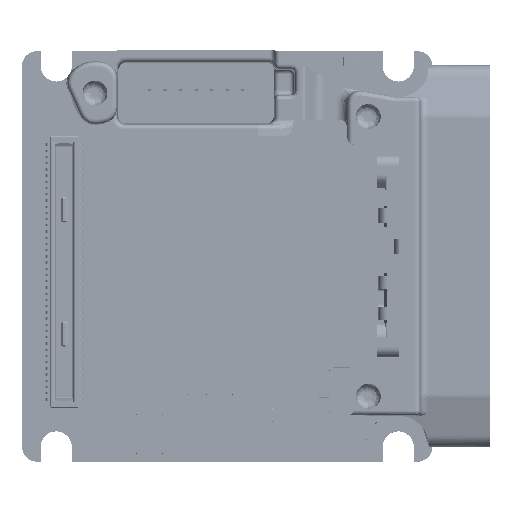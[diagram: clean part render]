
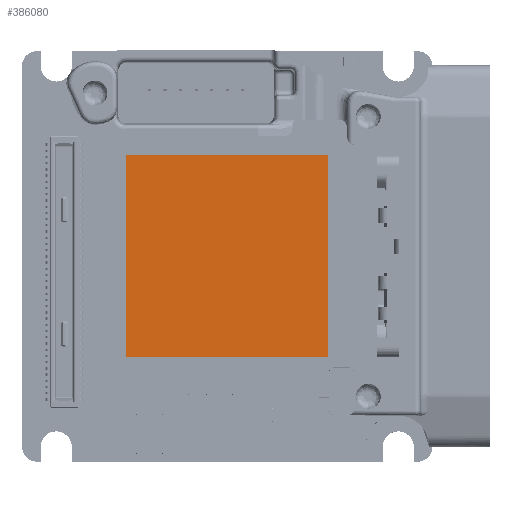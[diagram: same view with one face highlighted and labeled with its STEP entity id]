
A CAD part, top view. The second image highlights one B-rep face of the part: STEP entity #386080.
In plain terms, the highlighted planar face has unit normal (0, 0, 1).
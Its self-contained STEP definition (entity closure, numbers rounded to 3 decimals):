
#23294 = EDGE_LOOP ( 'NONE', ( #552199, #713909, #111579, #713927 ) ) ;
#109202 = CARTESIAN_POINT ( 'NONE',  ( 6.5, -6.5, 6.162 ) ) ;
#111579 = ORIENTED_EDGE ( 'NONE', *, *, #208234, .F. ) ;
#129047 = PLANE ( 'NONE',  #692253 ) ;
#136791 = DIRECTION ( 'NONE',  ( 1., 0., 0. ) ) ;
#156968 = DIRECTION ( 'NONE',  ( 0., 1., 0. ) ) ;
#176640 = CARTESIAN_POINT ( 'NONE',  ( -6.5, 6.5, 6.162 ) ) ;
#178102 = EDGE_CURVE ( 'NONE', #320762, #644305, #224330, .T. ) ;
#208234 = EDGE_CURVE ( 'NONE', #224751, #320762, #577800, .T. ) ;
#224330 = LINE ( 'NONE', #346500, #488703 ) ;
#224751 = VERTEX_POINT ( 'NONE', #176640 ) ;
#254535 = VECTOR ( 'NONE', #695979, 1000. ) ;
#277368 = VERTEX_POINT ( 'NONE', #639748 ) ;
#287374 = DIRECTION ( 'NONE',  ( 0., -1., 0. ) ) ;
#320762 = VERTEX_POINT ( 'NONE', #643277 ) ;
#326445 = CARTESIAN_POINT ( 'NONE',  ( 6.5, -6.5, 6.162 ) ) ;
#346500 = CARTESIAN_POINT ( 'NONE',  ( 6.5, 6.5, 6.162 ) ) ;
#386080 = ADVANCED_FACE ( 'NONE', ( #547004 ), #129047, .T. ) ;
#404730 = LINE ( 'NONE', #109202, #592985 ) ;
#436285 = DIRECTION ( 'NONE',  ( 0., 0., 1. ) ) ;
#460346 = LINE ( 'NONE', #756077, #608177 ) ;
#488703 = VECTOR ( 'NONE', #287374, 1000. ) ;
#539692 = EDGE_CURVE ( 'NONE', #277368, #224751, #460346, .T. ) ;
#547004 = FACE_OUTER_BOUND ( 'NONE', #23294, .T. ) ;
#552199 = ORIENTED_EDGE ( 'NONE', *, *, #653946, .F. ) ;
#573930 = CARTESIAN_POINT ( 'NONE',  ( -6.5, 6.5, 6.162 ) ) ;
#577800 = LINE ( 'NONE', #573930, #254535 ) ;
#578533 = DIRECTION ( 'NONE',  ( -1., 0., 0. ) ) ;
#592985 = VECTOR ( 'NONE', #578533, 1000. ) ;
#608177 = VECTOR ( 'NONE', #156968, 1000. ) ;
#639748 = CARTESIAN_POINT ( 'NONE',  ( -6.5, -6.5, 6.162 ) ) ;
#643277 = CARTESIAN_POINT ( 'NONE',  ( 6.5, 6.5, 6.162 ) ) ;
#644305 = VERTEX_POINT ( 'NONE', #326445 ) ;
#653946 = EDGE_CURVE ( 'NONE', #644305, #277368, #404730, .T. ) ;
#692253 = AXIS2_PLACEMENT_3D ( 'NONE', #728145, #436285, #136791 ) ;
#695979 = DIRECTION ( 'NONE',  ( 1., 0., 0. ) ) ;
#713909 = ORIENTED_EDGE ( 'NONE', *, *, #178102, .F. ) ;
#713927 = ORIENTED_EDGE ( 'NONE', *, *, #539692, .F. ) ;
#728145 = CARTESIAN_POINT ( 'NONE',  ( -6.5, -6.5, 6.162 ) ) ;
#756077 = CARTESIAN_POINT ( 'NONE',  ( -6.5, -6.5, 6.162 ) ) ;
